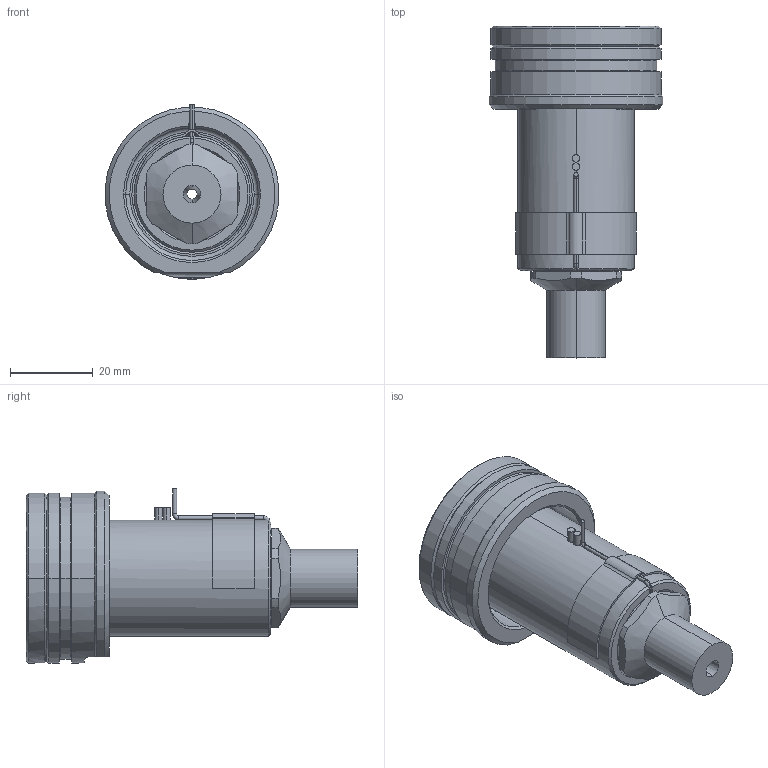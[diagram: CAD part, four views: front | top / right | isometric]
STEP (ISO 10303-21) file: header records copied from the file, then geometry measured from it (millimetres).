
FILE_DESCRIPTION((''),'2;1');
FILE_NAME('EO10_VG-FBE_STD_050_SW','2024-02-19T13:57:43',('sundharh'),(''),'CREO PARAMETRIC BY PTC INC, 2023154','CREO PARAMETRIC BY PTC INC, 2023154','');
FILE_SCHEMA(('CONFIG_CONTROL_DESIGN'));
Length unit declared in the file: millimetre
Products named in the file (1): EO10_VG-FBE_STD_050_SW
Bounding box: 41.85 x 80 x 42.02 mm (x, y, z)
Volume: 46889.8 mm3; surface area: 15554.3 mm2
Topology: 1 solids, 1 shells, 195 faces, 484 edges, 295 vertices
Faces by surface type: cylinder 71, plane 47, cone 39, torus 23, bspline 13, sphere 2
Entity records: 6689 total; most frequent: CARTESIAN_POINT 1965, DIRECTION 1045, ORIENTED_EDGE 964, EDGE_CURVE 482, AXIS2_PLACEMENT_3D 437, VERTEX_POINT 295, CIRCLE 255, EDGE_LOOP 211
